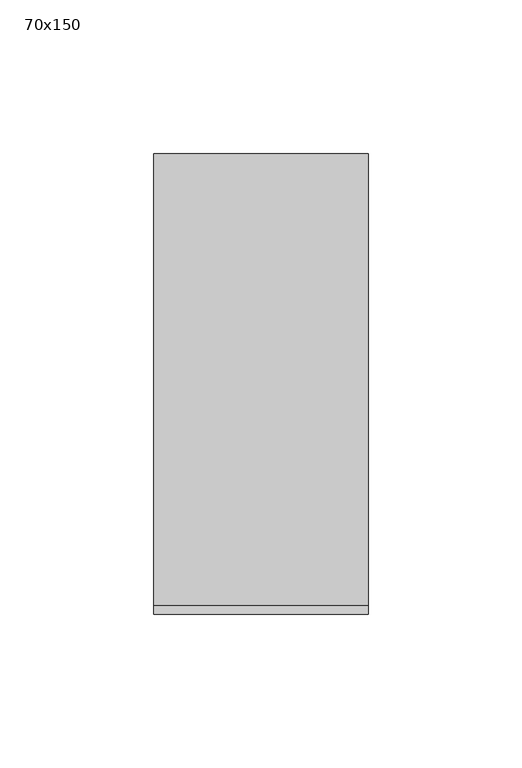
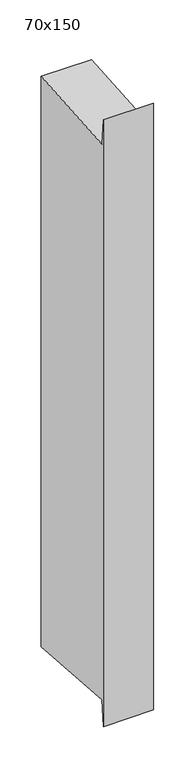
"""IFC4 building model written with IfcOpenShell, lengths in millimetres: member geometry, 長方形のマリオン : 70x150."""

from ifc_helpers import new_model, si_unit, frame, origin, place, context, project, spatial, polyline, outline, extrude, source, transform, mapped, element, save


def member_70x150_2211757b(model_context):
    return source(origin(), model_context, "Body", "SweptSolid", [
        extrude(outline(polyline([(-75.0, 32.262788), (-72.2491374, -5.374028), (75.0, 5.3883632), (75.0, -835.3883632), (-72.2491374, -824.625972), (-75.0, -862.262788), (-75.0, 32.262788)])), frame((-70.0, 0.0, 0.0), z_axis=(1.0, 0.0, 0.0), x_axis=(0.0, 1.0, 0.0)), (0.0, 0.0, 1.0), 70.0),
    ])


if __name__ == "__main__":
    model = new_model("IFC4")
    model_context = context("Model", 3, world=origin())
    ifc_project = project(units=[si_unit("LENGTHUNIT", "METRE", prefix="MILLI")], contexts=[model_context])
    site = spatial("IfcSite", under=ifc_project)
    building = spatial("IfcBuilding", under=site)
    placement = place(None, origin())
    member_70x150_shape = member_70x150_2211757b(model_context)
    element("IfcMember", 1, ObjectType="長方形のマリオン : 70x150", at=placement, inside=building, context=model_context, shape_type="MappedRepresentation", body=[
        mapped(member_70x150_shape, transform((0.0, 0.0, 0.0), x_axis=(1.0, 0.0, 0.0), y_axis=(0.0, 1.0, 0.0), z_axis=(0.0, 0.0, 1.0))),
    ])
    save(model, "model.ifc")
